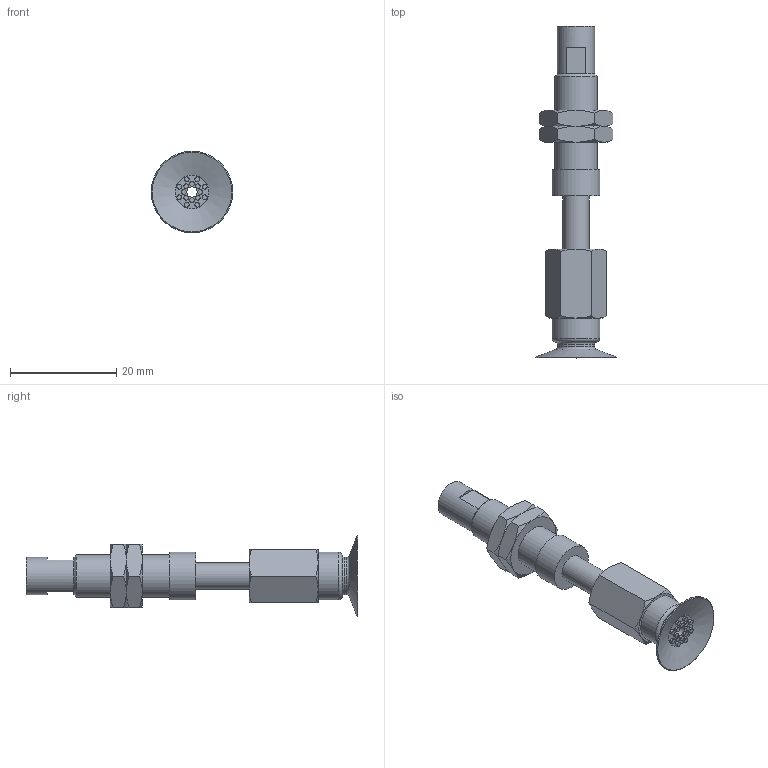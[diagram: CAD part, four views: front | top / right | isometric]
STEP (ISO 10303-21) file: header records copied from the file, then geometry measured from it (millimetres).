
FILE_DESCRIPTION(('STEP AP203'),'1');
FILE_NAME('.stp','2025-08-26T08:46:44',(' '),(' '),'Spatial InterOp 3D',' ',' ');
FILE_SCHEMA(('CONFIG_CONTROL_DESIGN'));
Length unit declared in the file: millimetre
Products named in the file (6): BNABPATS-15A-10-※; ADAPTER; NAPATS-10A-10--M; NAPATS-10A-10--F; Nut-10A-S; BPAG-15A-※_3D
Assembly tree (6 placements, depth 2):
  BNABPATS-15A-10-※
    ADAPTER
    NAPATS-10A-10--M
    NAPATS-10A-10--F
    Nut-10A-S  x2
    BPAG-15A-※_3D
Bounding box: 15.3 x 62.5 x 15.3 mm (x, y, z)
Volume: 3523.5 mm3; surface area: 4283.7 mm2
Topology: 6 solids, 6 shells, 144 faces, 281 edges, 172 vertices
Faces by surface type: plane 57, cone 45, cylinder 33, torus 9
Full cylindrical faces by diameter (mm): 0.9 x16, 2 x3, 4 x2, 4.134 x1, 5 x2, 6 x2, 7 x2, 7.188 x2, 8 x1, 9 x2
Entity records: 3264 total; most frequent: CARTESIAN_POINT 728, DIRECTION 490, ORIENTED_EDGE 352, AXIS2_PLACEMENT_3D 234, EDGE_LOOP 202, EDGE_CURVE 176, FACE_OUTER_BOUND 162, VERTEX_POINT 136
